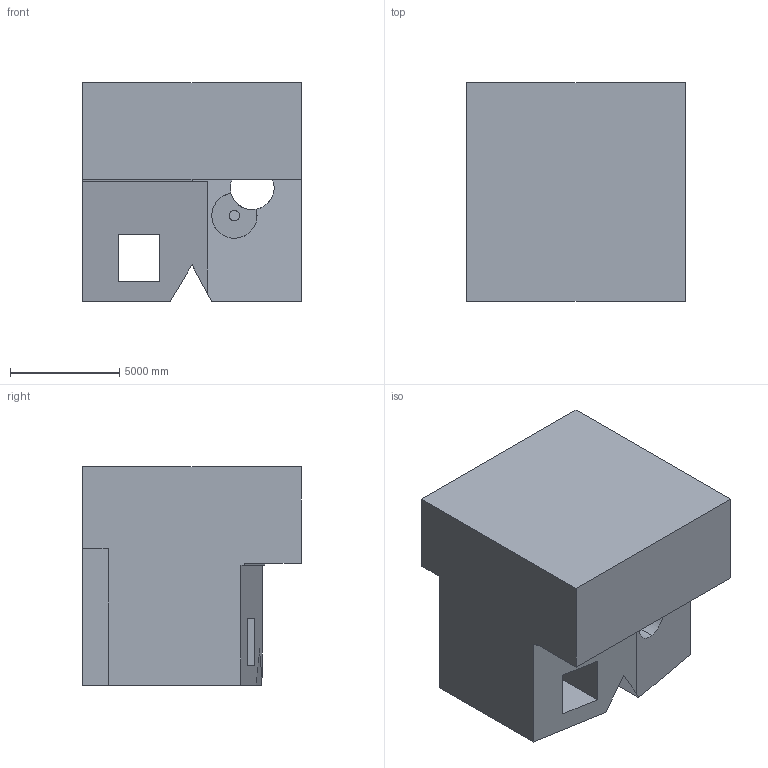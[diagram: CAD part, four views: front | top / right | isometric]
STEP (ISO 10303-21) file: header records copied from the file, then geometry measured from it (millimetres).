
FILE_DESCRIPTION (( 'STEP AP203' ), '1' );
FILE_NAME ('910.STEP', '2022-07-29T14:13:26', ( 'user' ), ( '' ), 'SwSTEP 2.0', 'SolidWorks 2021', '' );
FILE_SCHEMA (( 'CONFIG_CONTROL_DESIGN' ));
Length unit declared in the file: centimetre
Products named in the file (1): 910
Bounding box: 10000 x 10000 x 10000 mm (x, y, z)
Volume: 735860644323.2 mm3; surface area: 740796604.6 mm2
Topology: 1 solids, 1 shells, 37 faces, 102 edges, 68 vertices
Faces by surface type: plane 27, cylinder 10
Entity records: 1338 total; most frequent: CARTESIAN_POINT 311, ORIENTED_EDGE 204, DIRECTION 187, EDGE_CURVE 102, LINE 77, VECTOR 77, VERTEX_POINT 68, AXIS2_PLACEMENT_3D 55
